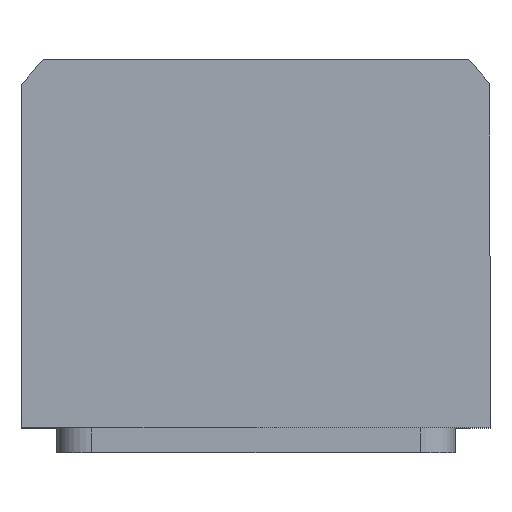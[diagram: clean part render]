
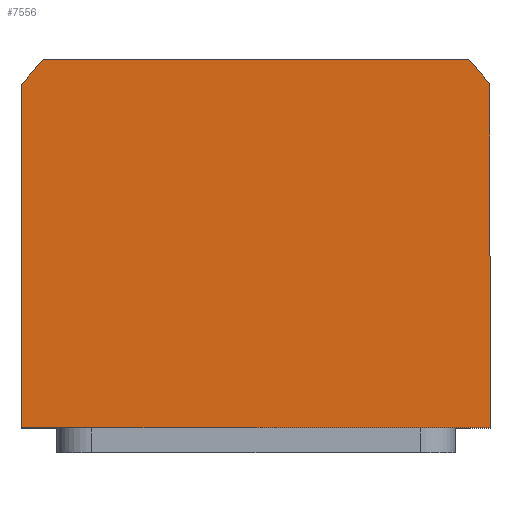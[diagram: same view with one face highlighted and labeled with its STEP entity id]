
A CAD part, top view. The second image highlights one B-rep face of the part: STEP entity #7556.
In plain terms, the highlighted planar face has unit normal (0, 0, 1).
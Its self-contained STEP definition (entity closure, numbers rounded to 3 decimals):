
#21 = CARTESIAN_POINT ( 'NONE',  ( 47., -34., 40. ) ) ;
#135 = DIRECTION ( 'NONE',  ( 0., 0., 1. ) ) ;
#177 = CARTESIAN_POINT ( 'NONE',  ( 0., 0., 40. ) ) ;
#302 = VECTOR ( 'NONE', #11367, 1000. ) ;
#323 = VERTEX_POINT ( 'NONE', #14441 ) ;
#403 = CARTESIAN_POINT ( 'NONE',  ( 42.688, 40., 40. ) ) ;
#662 = EDGE_CURVE ( 'NONE', #8062, #1969, #3375, .T. ) ;
#1969 = VERTEX_POINT ( 'NONE', #12883 ) ;
#2002 = LINE ( 'NONE', #14095, #7943 ) ;
#2443 = CARTESIAN_POINT ( 'NONE',  ( 0., 0., 40. ) ) ;
#2556 = VECTOR ( 'NONE', #10006, 1000. ) ;
#2795 = ORIENTED_EDGE ( 'NONE', *, *, #6863, .T. ) ;
#3375 = LINE ( 'NONE', #4468, #302 ) ;
#3645 = DIRECTION ( 'NONE',  ( 0., 0., 1. ) ) ;
#3944 = PLANE ( 'NONE',  #14394 ) ;
#4468 = CARTESIAN_POINT ( 'NONE',  ( -42.688, 40., 40. ) ) ;
#4716 = VECTOR ( 'NONE', #11623, 1000. ) ;
#4974 = EDGE_CURVE ( 'NONE', #13399, #8062, #8332, .T. ) ;
#5242 = ORIENTED_EDGE ( 'NONE', *, *, #6979, .T. ) ;
#6018 = VERTEX_POINT ( 'NONE', #7616 ) ;
#6863 = EDGE_CURVE ( 'NONE', #10082, #13399, #6884, .T. ) ;
#6884 = LINE ( 'NONE', #9318, #4716 ) ;
#6979 = EDGE_CURVE ( 'NONE', #323, #6018, #2002, .T. ) ;
#7061 = EDGE_CURVE ( 'NONE', #6018, #10082, #9912, .T. ) ;
#7076 = ORIENTED_EDGE ( 'NONE', *, *, #662, .T. ) ;
#7109 = DIRECTION ( 'NONE',  ( 0., 0., 1. ) ) ;
#7556 = ADVANCED_FACE ( 'NONE', ( #11871 ), #3944, .T. ) ;
#7616 = CARTESIAN_POINT ( 'NONE',  ( -47., -34., 40. ) ) ;
#7943 = VECTOR ( 'NONE', #10651, 1000. ) ;
#8062 = VERTEX_POINT ( 'NONE', #403 ) ;
#8163 = DIRECTION ( 'NONE',  ( 1., 0., 0. ) ) ;
#8173 = DIRECTION ( 'NONE',  ( 1., 0., 0. ) ) ;
#8332 = CIRCLE ( 'NONE', #10502, 58.5 ) ;
#8531 = EDGE_LOOP ( 'NONE', ( #11842, #2795, #14831, #7076, #14524, #5242 ) ) ;
#8875 = AXIS2_PLACEMENT_3D ( 'NONE', #2443, #135, #8173 ) ;
#9318 = CARTESIAN_POINT ( 'NONE',  ( 47., 34.832, 40. ) ) ;
#9912 = LINE ( 'NONE', #10988, #2556 ) ;
#10006 = DIRECTION ( 'NONE',  ( 1., 0., 0. ) ) ;
#10082 = VERTEX_POINT ( 'NONE', #21 ) ;
#10502 = AXIS2_PLACEMENT_3D ( 'NONE', #177, #7109, #8163 ) ;
#10651 = DIRECTION ( 'NONE',  ( 0., -1., 0. ) ) ;
#10988 = CARTESIAN_POINT ( 'NONE',  ( 47., -34., 40. ) ) ;
#11020 = CIRCLE ( 'NONE', #8875, 58.5 ) ;
#11367 = DIRECTION ( 'NONE',  ( -1., 0., 0. ) ) ;
#11623 = DIRECTION ( 'NONE',  ( 0., 1., 0. ) ) ;
#11842 = ORIENTED_EDGE ( 'NONE', *, *, #7061, .T. ) ;
#11871 = FACE_OUTER_BOUND ( 'NONE', #8531, .T. ) ;
#11952 = DIRECTION ( 'NONE',  ( 1., 0., 0. ) ) ;
#11996 = CARTESIAN_POINT ( 'NONE',  ( 0., 0., 40. ) ) ;
#12521 = CARTESIAN_POINT ( 'NONE',  ( 47., 34.832, 40. ) ) ;
#12883 = CARTESIAN_POINT ( 'NONE',  ( -42.688, 40., 40. ) ) ;
#12935 = EDGE_CURVE ( 'NONE', #1969, #323, #11020, .T. ) ;
#13399 = VERTEX_POINT ( 'NONE', #12521 ) ;
#14095 = CARTESIAN_POINT ( 'NONE',  ( -47., -34., 40. ) ) ;
#14394 = AXIS2_PLACEMENT_3D ( 'NONE', #11996, #3645, #11952 ) ;
#14441 = CARTESIAN_POINT ( 'NONE',  ( -47., 34.832, 40. ) ) ;
#14524 = ORIENTED_EDGE ( 'NONE', *, *, #12935, .T. ) ;
#14831 = ORIENTED_EDGE ( 'NONE', *, *, #4974, .T. ) ;
